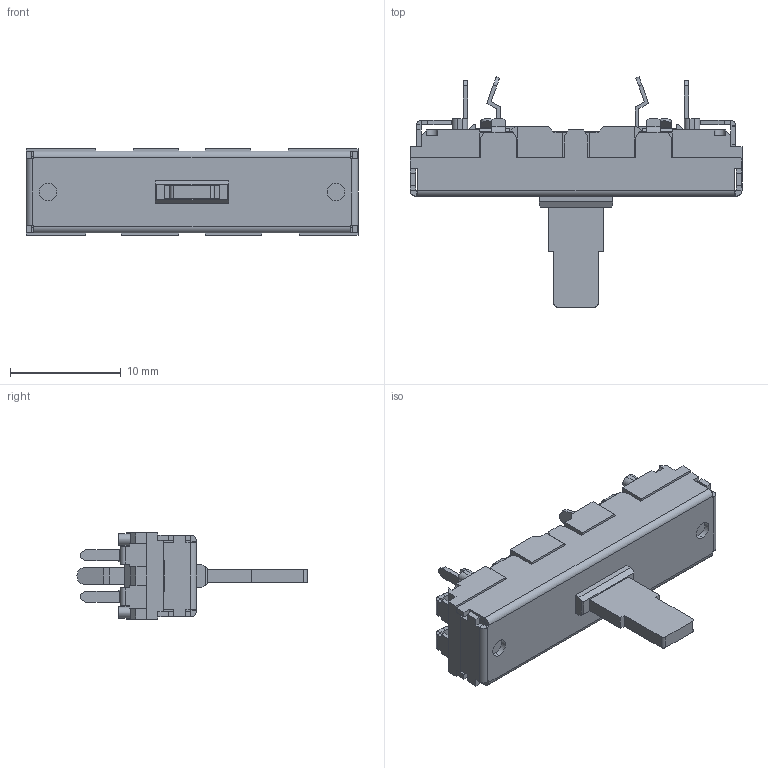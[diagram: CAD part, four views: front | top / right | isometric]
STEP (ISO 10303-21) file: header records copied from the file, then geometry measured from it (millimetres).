
FILE_DESCRIPTION (( 'STEP AP214' ), '1' );
FILE_NAME ('RS15111A9A03.STEP', '2021-06-08T00:32:08', ( '' ), ( '' ), 'SwSTEP 2.0', 'SolidWorks 2019', '' );
FILE_SCHEMA (( 'AUTOMOTIVE_DESIGN' ));
Length unit declared in the file: millimetre
Products named in the file (1): RS15111A9A03
Bounding box: 30 x 20.8 x 7.8 mm (x, y, z)
Volume: 1362.2 mm3; surface area: 1390.6 mm2
Topology: 1 solids, 1 shells, 559 faces, 1525 edges, 964 vertices
Faces by surface type: plane 482, cylinder 69, bspline 8
Entity records: 21569 total; most frequent: CARTESIAN_POINT 3197, ORIENTED_EDGE 3050, DIRECTION 2727, EDGE_CURVE 1525, LINE 1355, VECTOR 1355, VERTEX_POINT 964, AXIS2_PLACEMENT_3D 686
